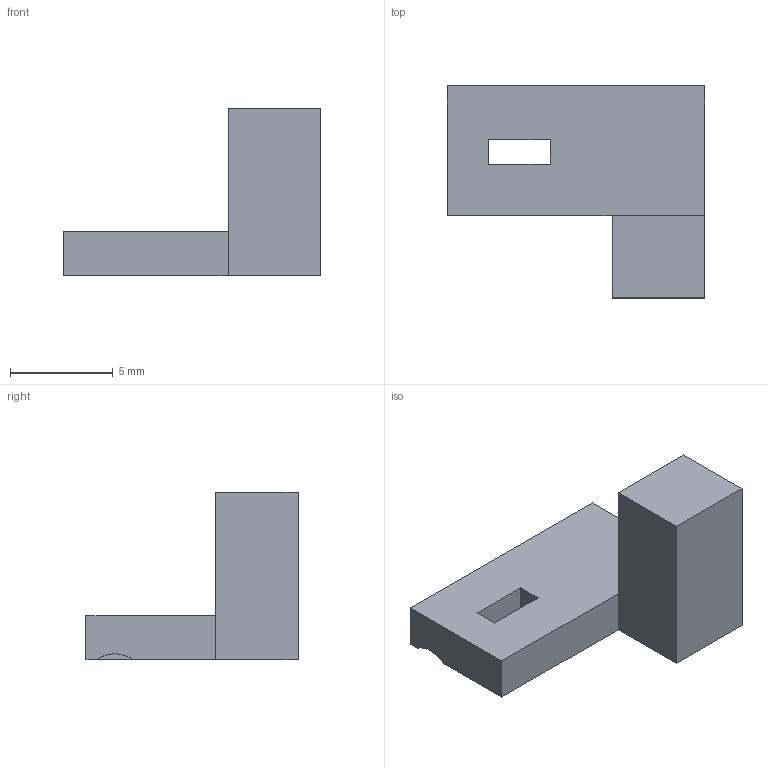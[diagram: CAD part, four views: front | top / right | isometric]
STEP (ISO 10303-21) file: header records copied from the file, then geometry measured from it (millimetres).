
FILE_DESCRIPTION(('Open CASCADE Model'),'2;1');
FILE_NAME('Open CASCADE Shape Model','2026-09-15T14:46:21',('Author'),( 'Open CASCADE'),'Open CASCADE STEP processor 7.7','Open CASCADE 7.7' ,'Unknown');
FILE_SCHEMA(('AUTOMOTIVE_DESIGN { 1 0 10303 214 1 1 1 1 }'));
Length unit declared in the file: millimetre
Products named in the file (1): ADD_P01_J9_COMMON_JUNCTION_SUPPORT
Bounding box: 12.5 x 10.3 x 8.15 mm (x, y, z)
Volume: 305.9 mm3; surface area: 405.5 mm2
Topology: 1 solids, 1 shells, 29 faces, 71 edges, 44 vertices
Faces by surface type: plane 25, cylinder 3, torus 1
Entity records: 1841 total; most frequent: CARTESIAN_POINT 381, DIRECTION 271, LINE 179, VECTOR 179, ORIENTED_EDGE 142, PCURVE 142, DEFINITIONAL_REPRESENTATION 142, EDGE_CURVE 71
